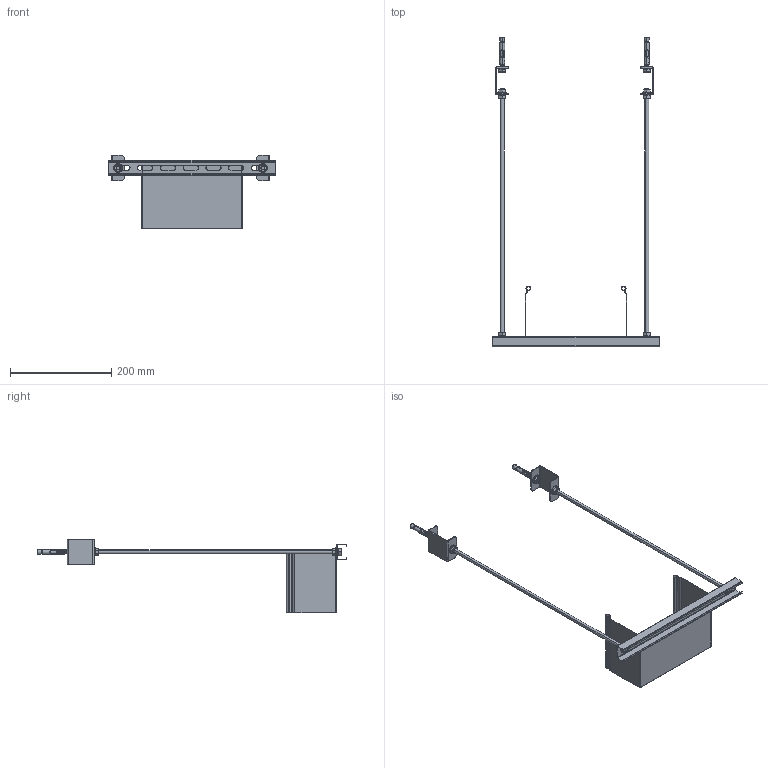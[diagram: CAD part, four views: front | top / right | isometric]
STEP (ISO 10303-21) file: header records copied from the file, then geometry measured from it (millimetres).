
FILE_DESCRIPTION (( 'STEP AP214' ), '1' );
FILE_NAME ('20 ﾋﾏﾌﾇﾒ (ﾌ) + ﾏﾏ + ﾑ.STEP', '2016-09-20T09:54:37', ( '' ), ( '' ), 'SwSTEP 2.0', 'SolidWorks 2016', '' );
FILE_SCHEMA (( 'AUTOMOTIVE_DESIGN' ));
Length unit declared in the file: millimetre
Products named in the file (10): 20 ﾋﾏﾌﾇﾒ (ﾌ) + ﾏﾏ + ﾑ; 067809 襟8捘_Hexagon Flange Nut DIN 6923 - M8 - N; 064829 ØÏ8-2_˜¯¨«ìª  Œ8-6gx500 ƒŽ‘’ 22034-76; 062889 ﾀﾁﾌ885; Hexagon Flange Nut DIN 6923 - M8 - N_Hexagon Flange Nut DIN 6923 - M8 - N; 栺歑緪薤 鳧耪譇; 秮鶋罻 鳧耪譇; Ëîòîê Îáðàç_200å100; 051901 珫-100_330; 052901 ﾊﾏﾏﾋﾑ
Assembly tree (21 placements, depth 3):
  20 ﾋﾏﾌﾇﾒ (ﾌ) + ﾏﾏ + ﾑ
    052901 ﾊﾏﾏﾋﾑ  x2
    051901 珫-100_330
    Ëîòîê Îáðàç_200å100
    062889 ﾀﾁﾌ885  x2
      秮鶋罻 鳧耪譇
      栺歑緪薤 鳧耪譇
      Hexagon Flange Nut DIN 6923 - M8 - N_Hexagon Flange Nut DIN 6923 - M8 - N
    064829 ØÏ8-2_˜¯¨«ìª  Œ8-6gx500 ƒŽ‘’ 22034-76  x2
    067809 襟8捘_Hexagon Flange Nut DIN 6923 - M8 - N  x10
Bounding box: 330 x 612.1 x 145 mm (x, y, z)
Volume: 158863 mm3; surface area: 220808.1 mm2
Topology: 22 solids, 22 shells, 684 faces, 1570 edges, 932 vertices
Faces by surface type: plane 244, cone 160, cylinder 156, bspline 100, torus 24
Entity records: 13470 total; most frequent: CARTESIAN_POINT 6823, ORIENTED_EDGE 1308, DIRECTION 1256, EDGE_CURVE 654, AXIS2_PLACEMENT_3D 466, VERTEX_POINT 392, LINE 324, VECTOR 324
